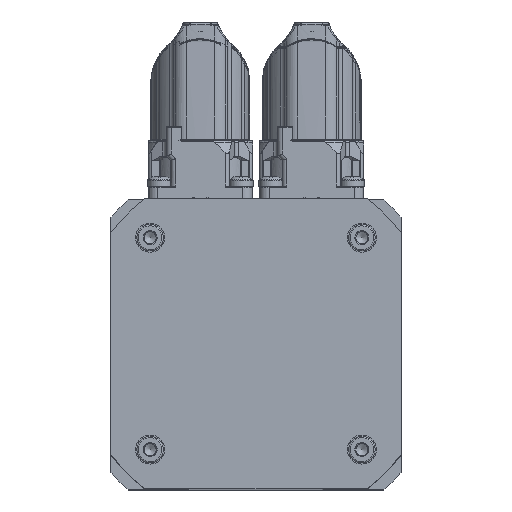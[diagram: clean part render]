
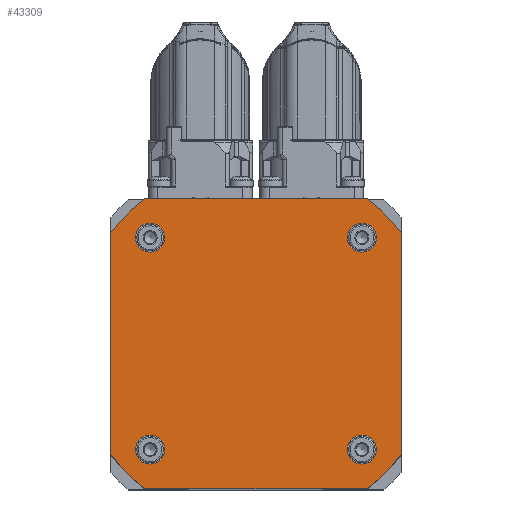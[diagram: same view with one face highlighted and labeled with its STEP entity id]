
A CAD part, top view. The second image highlights one B-rep face of the part: STEP entity #43309.
In plain terms, the highlighted planar face has unit normal (0, 0, 1).
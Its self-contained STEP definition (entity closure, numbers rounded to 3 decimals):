
#5439=LINE('',#64363,#7476);
#5443=LINE('',#64375,#7480);
#5447=LINE('',#64387,#7484);
#5451=LINE('',#64397,#7488);
#7476=VECTOR('',#51625,45.993);
#7480=VECTOR('',#51637,45.993);
#7484=VECTOR('',#51649,45.993);
#7488=VECTOR('',#51661,45.993);
#9486=PLANE('',#46102);
#10215=FACE_BOUND('',#13399,.T.);
#10216=FACE_BOUND('',#13400,.T.);
#10217=FACE_BOUND('',#13401,.T.);
#10218=FACE_BOUND('',#13402,.T.);
#10219=FACE_BOUND('',#13403,.T.);
#13399=EDGE_LOOP('',(#29850));
#13400=EDGE_LOOP('',(#29851));
#13401=EDGE_LOOP('',(#29852));
#13402=EDGE_LOOP('',(#29853));
#13403=EDGE_LOOP('',(#29854,#29855,#29856,#29857,#29858,#29859,#29860,#29861));
#16438=CIRCLE('',#46071,3.);
#16440=CIRCLE('',#46075,3.);
#16442=CIRCLE('',#46079,3.);
#16444=CIRCLE('',#46083,3.);
#16447=CIRCLE('',#46088,37.8);
#16449=CIRCLE('',#46092,37.8);
#16451=CIRCLE('',#46096,37.8);
#16453=CIRCLE('',#46100,37.8);
#19082=VERTEX_POINT('',#64327);
#19084=VERTEX_POINT('',#64333);
#19086=VERTEX_POINT('',#64339);
#19088=VERTEX_POINT('',#64345);
#19092=VERTEX_POINT('',#64354);
#19093=VERTEX_POINT('',#64356);
#19095=VERTEX_POINT('',#64362);
#19097=VERTEX_POINT('',#64368);
#19099=VERTEX_POINT('',#64374);
#19101=VERTEX_POINT('',#64380);
#19103=VERTEX_POINT('',#64386);
#19105=VERTEX_POINT('',#64392);
#23258=EDGE_CURVE('',#19082,#19082,#16438,.T.);
#23260=EDGE_CURVE('',#19084,#19084,#16440,.T.);
#23262=EDGE_CURVE('',#19086,#19086,#16442,.T.);
#23264=EDGE_CURVE('',#19088,#19088,#16444,.T.);
#23268=EDGE_CURVE('',#19093,#19092,#16447,.T.);
#23271=EDGE_CURVE('',#19095,#19093,#5439,.T.);
#23274=EDGE_CURVE('',#19097,#19095,#16449,.T.);
#23277=EDGE_CURVE('',#19099,#19097,#5443,.T.);
#23280=EDGE_CURVE('',#19101,#19099,#16451,.T.);
#23283=EDGE_CURVE('',#19103,#19101,#5447,.T.);
#23286=EDGE_CURVE('',#19105,#19103,#16453,.T.);
#23289=EDGE_CURVE('',#19092,#19105,#5451,.T.);
#29850=ORIENTED_EDGE('',*,*,#23258,.T.);
#29851=ORIENTED_EDGE('',*,*,#23260,.T.);
#29852=ORIENTED_EDGE('',*,*,#23262,.T.);
#29853=ORIENTED_EDGE('',*,*,#23264,.T.);
#29854=ORIENTED_EDGE('',*,*,#23289,.T.);
#29855=ORIENTED_EDGE('',*,*,#23286,.T.);
#29856=ORIENTED_EDGE('',*,*,#23283,.T.);
#29857=ORIENTED_EDGE('',*,*,#23280,.T.);
#29858=ORIENTED_EDGE('',*,*,#23277,.T.);
#29859=ORIENTED_EDGE('',*,*,#23274,.T.);
#29860=ORIENTED_EDGE('',*,*,#23271,.T.);
#29861=ORIENTED_EDGE('',*,*,#23268,.T.);
#43309=ADVANCED_FACE('',(#10215,#10216,#10217,#10218,#10219),#9486,.T.);
#46071=AXIS2_PLACEMENT_3D('',#64328,#51584,#51585);
#46075=AXIS2_PLACEMENT_3D('',#64334,#51592,#51593);
#46079=AXIS2_PLACEMENT_3D('',#64340,#51600,#51601);
#46083=AXIS2_PLACEMENT_3D('',#64346,#51608,#51609);
#46088=AXIS2_PLACEMENT_3D('',#64357,#51619,#51620);
#46092=AXIS2_PLACEMENT_3D('',#64369,#51631,#51632);
#46096=AXIS2_PLACEMENT_3D('',#64381,#51643,#51644);
#46100=AXIS2_PLACEMENT_3D('',#64393,#51655,#51656);
#46102=AXIS2_PLACEMENT_3D('',#64398,#51662,#51663);
#51584=DIRECTION('center_axis',(0.,0.,-1.));
#51585=DIRECTION('ref_axis',(0.,-1.,0.));
#51592=DIRECTION('center_axis',(0.,0.,-1.));
#51593=DIRECTION('ref_axis',(-1.,0.,0.));
#51600=DIRECTION('center_axis',(0.,0.,-1.));
#51601=DIRECTION('ref_axis',(0.,1.,0.));
#51608=DIRECTION('center_axis',(0.,0.,-1.));
#51609=DIRECTION('ref_axis',(1.,0.,0.));
#51619=DIRECTION('center_axis',(0.,0.,1.));
#51620=DIRECTION('ref_axis',(0.794,0.608,0.));
#51625=DIRECTION('',(0.,1.,0.));
#51631=DIRECTION('center_axis',(0.,0.,1.));
#51632=DIRECTION('ref_axis',(0.608,-0.794,0.));
#51637=DIRECTION('',(1.,0.,0.));
#51643=DIRECTION('center_axis',(0.,0.,1.));
#51644=DIRECTION('ref_axis',(-0.794,-0.608,0.));
#51649=DIRECTION('',(0.,-1.,0.));
#51655=DIRECTION('center_axis',(0.,0.,1.));
#51656=DIRECTION('ref_axis',(-0.608,0.794,0.));
#51661=DIRECTION('',(-1.,0.,0.));
#51662=DIRECTION('center_axis',(0.,0.,1.));
#51663=DIRECTION('ref_axis',(1.,0.,0.));
#64327=CARTESIAN_POINT('',(21.92,-24.92,162.35));
#64328=CARTESIAN_POINT('Origin',(21.92,-21.92,162.35));
#64333=CARTESIAN_POINT('',(-24.92,-21.92,162.35));
#64334=CARTESIAN_POINT('Origin',(-21.92,-21.92,162.35));
#64339=CARTESIAN_POINT('',(-21.92,24.92,162.35));
#64340=CARTESIAN_POINT('Origin',(-21.92,21.92,162.35));
#64345=CARTESIAN_POINT('',(24.92,21.92,162.35));
#64346=CARTESIAN_POINT('Origin',(21.92,21.92,162.35));
#64354=CARTESIAN_POINT('',(22.997,30.,162.35));
#64356=CARTESIAN_POINT('',(30.,22.997,162.35));
#64357=CARTESIAN_POINT('Origin',(0.,0.,162.35));
#64362=CARTESIAN_POINT('',(30.,-22.997,162.35));
#64363=CARTESIAN_POINT('',(30.,-30.,162.35));
#64368=CARTESIAN_POINT('',(22.997,-30.,162.35));
#64369=CARTESIAN_POINT('Origin',(0.,0.,162.35));
#64374=CARTESIAN_POINT('',(-22.997,-30.,162.35));
#64375=CARTESIAN_POINT('',(-30.,-30.,162.35));
#64380=CARTESIAN_POINT('',(-30.,-22.997,162.35));
#64381=CARTESIAN_POINT('Origin',(0.,0.,162.35));
#64386=CARTESIAN_POINT('',(-30.,22.997,162.35));
#64387=CARTESIAN_POINT('',(-30.,30.,162.35));
#64392=CARTESIAN_POINT('',(-22.997,30.,162.35));
#64393=CARTESIAN_POINT('Origin',(0.,0.,162.35));
#64397=CARTESIAN_POINT('',(30.,30.,162.35));
#64398=CARTESIAN_POINT('Origin',(0.,0.,
162.35));
